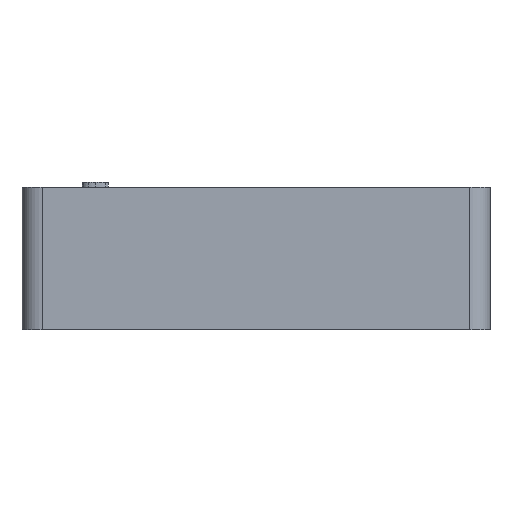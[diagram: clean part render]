
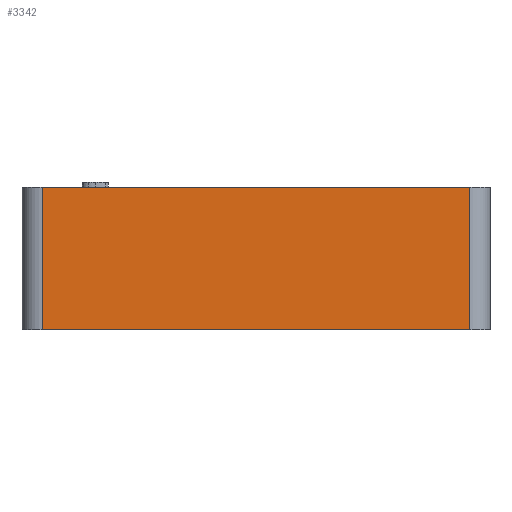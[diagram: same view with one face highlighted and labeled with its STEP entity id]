
A CAD part, left-side view. The second image highlights one B-rep face of the part: STEP entity #3342.
In plain terms, the highlighted planar face has unit normal (-1, 0, 0).
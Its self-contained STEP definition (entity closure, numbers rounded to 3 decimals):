
#62 = PLANE('',#63);
#63 = AXIS2_PLACEMENT_3D('',#64,#65,#66);
#64 = CARTESIAN_POINT('',(0.,0.,0.));
#65 = DIRECTION('',(0.,0.,1.));
#66 = DIRECTION('',(1.,0.,-0.));
#90 = CYLINDRICAL_SURFACE('',#91,2.);
#91 = AXIS2_PLACEMENT_3D('',#92,#93,#94);
#92 = CARTESIAN_POINT('',(-15.,-21.,0.));
#93 = DIRECTION('',(0.,0.,1.));
#94 = DIRECTION('',(0.,-1.,0.));
#118 = PLANE('',#119);
#119 = AXIS2_PLACEMENT_3D('',#120,#121,#122);
#120 = CARTESIAN_POINT('',(0.,0.,14.));
#121 = DIRECTION('',(0.,0.,1.));
#122 = DIRECTION('',(1.,0.,-0.));
#482 = VERTEX_POINT('',#483);
#483 = CARTESIAN_POINT('',(-17.,21.,0.));
#498 = CYLINDRICAL_SURFACE('',#499,2.);
#499 = AXIS2_PLACEMENT_3D('',#500,#501,#502);
#500 = CARTESIAN_POINT('',(-15.,21.,0.));
#501 = DIRECTION('',(0.,0.,1.));
#502 = DIRECTION('',(-0.,1.,0.));
#510 = EDGE_CURVE('',#482,#511,#513,.T.);
#511 = VERTEX_POINT('',#512);
#512 = CARTESIAN_POINT('',(-17.,-21.,0.));
#513 = SURFACE_CURVE('',#514,(#518,#525),.PCURVE_S1.);
#514 = LINE('',#515,#516);
#515 = CARTESIAN_POINT('',(-17.,23.,0.));
#516 = VECTOR('',#517,1.);
#517 = DIRECTION('',(0.,-1.,0.));
#518 = PCURVE('',#62,#519);
#519 = DEFINITIONAL_REPRESENTATION('',(#520),#524);
#520 = LINE('',#521,#522);
#521 = CARTESIAN_POINT('',(-17.,23.));
#522 = VECTOR('',#523,1.);
#523 = DIRECTION('',(0.,-1.));
#524 = ( GEOMETRIC_REPRESENTATION_CONTEXT(2) 
PARAMETRIC_REPRESENTATION_CONTEXT() REPRESENTATION_CONTEXT('2D SPACE',''
  ) );
#525 = PCURVE('',#526,#531);
#526 = PLANE('',#527);
#527 = AXIS2_PLACEMENT_3D('',#528,#529,#530);
#528 = CARTESIAN_POINT('',(-17.,23.,0.));
#529 = DIRECTION('',(1.,0.,-0.));
#530 = DIRECTION('',(0.,-1.,0.));
#531 = DEFINITIONAL_REPRESENTATION('',(#532),#536);
#532 = LINE('',#533,#534);
#533 = CARTESIAN_POINT('',(0.,0.));
#534 = VECTOR('',#535,1.);
#535 = DIRECTION('',(1.,0.));
#536 = ( GEOMETRIC_REPRESENTATION_CONTEXT(2) 
PARAMETRIC_REPRESENTATION_CONTEXT() REPRESENTATION_CONTEXT('2D SPACE',''
  ) );
#630 = EDGE_CURVE('',#511,#631,#633,.T.);
#631 = VERTEX_POINT('',#632);
#632 = CARTESIAN_POINT('',(-17.,-21.,14.));
#633 = SURFACE_CURVE('',#634,(#638,#645),.PCURVE_S1.);
#634 = LINE('',#635,#636);
#635 = CARTESIAN_POINT('',(-17.,-21.,0.));
#636 = VECTOR('',#637,1.);
#637 = DIRECTION('',(0.,0.,1.));
#638 = PCURVE('',#90,#639);
#639 = DEFINITIONAL_REPRESENTATION('',(#640),#644);
#640 = LINE('',#641,#642);
#641 = CARTESIAN_POINT('',(-1.571,0.));
#642 = VECTOR('',#643,1.);
#643 = DIRECTION('',(-0.,1.));
#644 = ( GEOMETRIC_REPRESENTATION_CONTEXT(2) 
PARAMETRIC_REPRESENTATION_CONTEXT() REPRESENTATION_CONTEXT('2D SPACE',''
  ) );
#645 = PCURVE('',#526,#646);
#646 = DEFINITIONAL_REPRESENTATION('',(#647),#651);
#647 = LINE('',#648,#649);
#648 = CARTESIAN_POINT('',(44.,0.));
#649 = VECTOR('',#650,1.);
#650 = DIRECTION('',(0.,-1.));
#651 = ( GEOMETRIC_REPRESENTATION_CONTEXT(2) 
PARAMETRIC_REPRESENTATION_CONTEXT() REPRESENTATION_CONTEXT('2D SPACE',''
  ) );
#779 = VERTEX_POINT('',#780);
#780 = CARTESIAN_POINT('',(-17.,21.,14.));
#802 = EDGE_CURVE('',#779,#631,#803,.T.);
#803 = SURFACE_CURVE('',#804,(#808,#815),.PCURVE_S1.);
#804 = LINE('',#805,#806);
#805 = CARTESIAN_POINT('',(-17.,23.,14.));
#806 = VECTOR('',#807,1.);
#807 = DIRECTION('',(0.,-1.,0.));
#808 = PCURVE('',#118,#809);
#809 = DEFINITIONAL_REPRESENTATION('',(#810),#814);
#810 = LINE('',#811,#812);
#811 = CARTESIAN_POINT('',(-17.,23.));
#812 = VECTOR('',#813,1.);
#813 = DIRECTION('',(0.,-1.));
#814 = ( GEOMETRIC_REPRESENTATION_CONTEXT(2) 
PARAMETRIC_REPRESENTATION_CONTEXT() REPRESENTATION_CONTEXT('2D SPACE',''
  ) );
#815 = PCURVE('',#526,#816);
#816 = DEFINITIONAL_REPRESENTATION('',(#817),#821);
#817 = LINE('',#818,#819);
#818 = CARTESIAN_POINT('',(0.,-14.));
#819 = VECTOR('',#820,1.);
#820 = DIRECTION('',(1.,0.));
#821 = ( GEOMETRIC_REPRESENTATION_CONTEXT(2) 
PARAMETRIC_REPRESENTATION_CONTEXT() REPRESENTATION_CONTEXT('2D SPACE',''
  ) );
#3342 = ADVANCED_FACE('',(#3343),#526,.F.);
#3343 = FACE_BOUND('',#3344,.F.);
#3344 = EDGE_LOOP('',(#3345,#3346,#3367,#3368));
#3345 = ORIENTED_EDGE('',*,*,#510,.F.);
#3346 = ORIENTED_EDGE('',*,*,#3347,.T.);
#3347 = EDGE_CURVE('',#482,#779,#3348,.T.);
#3348 = SURFACE_CURVE('',#3349,(#3353,#3360),.PCURVE_S1.);
#3349 = LINE('',#3350,#3351);
#3350 = CARTESIAN_POINT('',(-17.,21.,0.));
#3351 = VECTOR('',#3352,1.);
#3352 = DIRECTION('',(0.,0.,1.));
#3353 = PCURVE('',#526,#3354);
#3354 = DEFINITIONAL_REPRESENTATION('',(#3355),#3359);
#3355 = LINE('',#3356,#3357);
#3356 = CARTESIAN_POINT('',(2.,0.));
#3357 = VECTOR('',#3358,1.);
#3358 = DIRECTION('',(0.,-1.));
#3359 = ( GEOMETRIC_REPRESENTATION_CONTEXT(2) 
PARAMETRIC_REPRESENTATION_CONTEXT() REPRESENTATION_CONTEXT('2D SPACE',''
  ) );
#3360 = PCURVE('',#498,#3361);
#3361 = DEFINITIONAL_REPRESENTATION('',(#3362),#3366);
#3362 = LINE('',#3363,#3364);
#3363 = CARTESIAN_POINT('',(1.571,0.));
#3364 = VECTOR('',#3365,1.);
#3365 = DIRECTION('',(0.,1.));
#3366 = ( GEOMETRIC_REPRESENTATION_CONTEXT(2) 
PARAMETRIC_REPRESENTATION_CONTEXT() REPRESENTATION_CONTEXT('2D SPACE',''
  ) );
#3367 = ORIENTED_EDGE('',*,*,#802,.T.);
#3368 = ORIENTED_EDGE('',*,*,#630,.F.);
